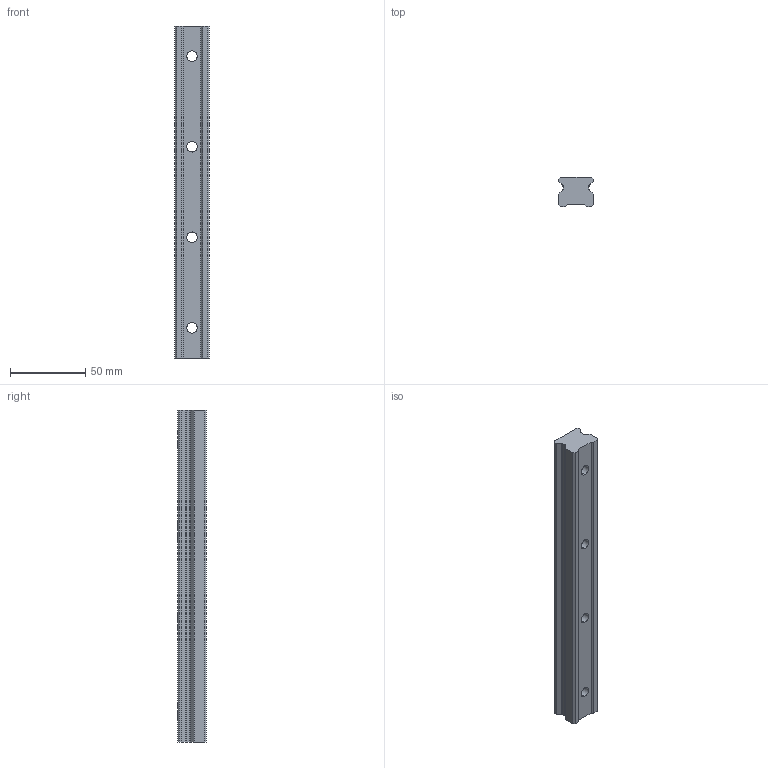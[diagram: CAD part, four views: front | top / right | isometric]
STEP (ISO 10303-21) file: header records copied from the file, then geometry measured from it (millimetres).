
FILE_DESCRIPTION (( 'STEP AP203' ), '1' );
FILE_NAME ('L1016.BL25-0220.step', '2019-06-12T12:04:07', ( '' ), ( '' ), 'SwSTEP 2.0', 'SolidWorks 2017', '' );
FILE_SCHEMA (( 'CONFIG_CONTROL_DESIGN' ));
Length unit declared in the file: millimetre
Products named in the file (1): L1016.BL25-0220
Bounding box: 23 x 19.2 x 220 mm (x, y, z)
Volume: 80702.8 mm3; surface area: 21668 mm2
Topology: 1 solids, 1 shells, 46 faces, 120 edges, 80 vertices
Faces by surface type: plane 26, cylinder 20
Entity records: 1517 total; most frequent: DIRECTION 254, CARTESIAN_POINT 247, ORIENTED_EDGE 240, EDGE_CURVE 120, AXIS2_PLACEMENT_3D 87, LINE 80, VERTEX_POINT 80, VECTOR 80
